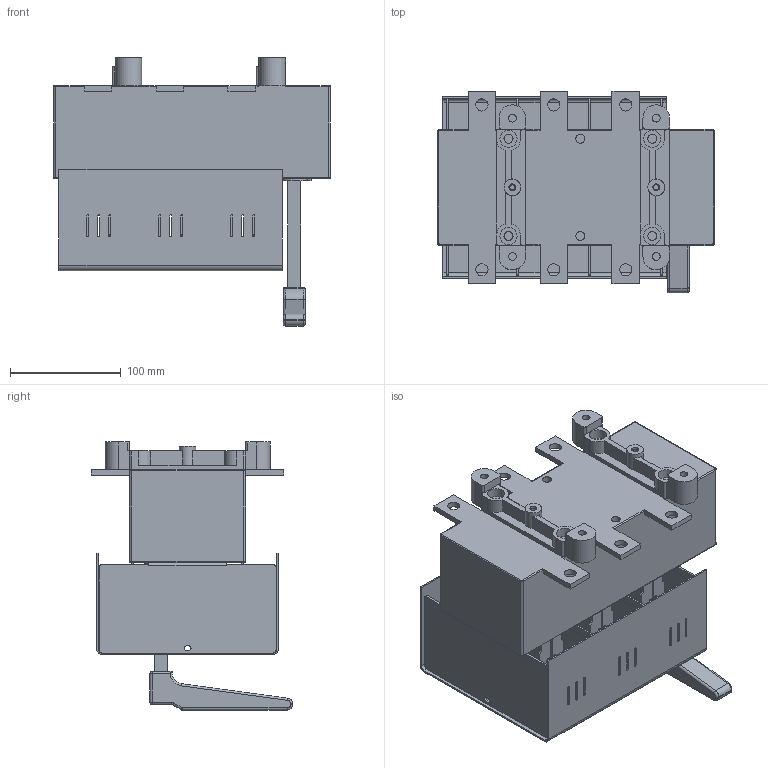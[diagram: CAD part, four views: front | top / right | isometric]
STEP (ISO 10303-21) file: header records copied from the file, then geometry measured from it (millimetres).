
FILE_DESCRIPTION(/* description */ (''),/* implementation_level */ '2;1');
FILE_NAME(/* name */ 'RAB 2 P3-R.stp',/* time_stamp */ '2021-08-19T13:29:21+02:00',/* author */ (''),/* organization */ (''),/* preprocessor_version */ 'ST-DEVELOPER v18.1',/* originating_system */ 'SIEMENS PLM Software NX 1965',/* authorisation */ '');
FILE_SCHEMA (('AUTOMOTIVE_DESIGN { 1 0 10303 214 3 1 1 1 }'));
Length unit declared in the file: millimetre
Products named in the file (1): RAB 2 P3-R_stp
Bounding box: 250 x 182 x 242.3 mm (x, y, z)
Volume: 2539283.8 mm3; surface area: 441208.8 mm2
Topology: 1 solids, 1 shells, 1014 faces, 2807 edges, 1822 vertices
Faces by surface type: plane 637, cylinder 355, torus 13, sphere 6, bspline 3
Full cylindrical faces by diameter (mm): 4.8 x2, 6.2 x2, 7 x4, 8.2 x6, 11 x6, 14 x4, 15 x2, 15.5 x4
Entity records: 32320 total; most frequent: CARTESIAN_POINT 5685, ORIENTED_EDGE 5522, DIRECTION 5519, EDGE_CURVE 2761, LINE 2011, VECTOR 2011, VERTEX_POINT 1812, AXIS2_PLACEMENT_3D 1754
